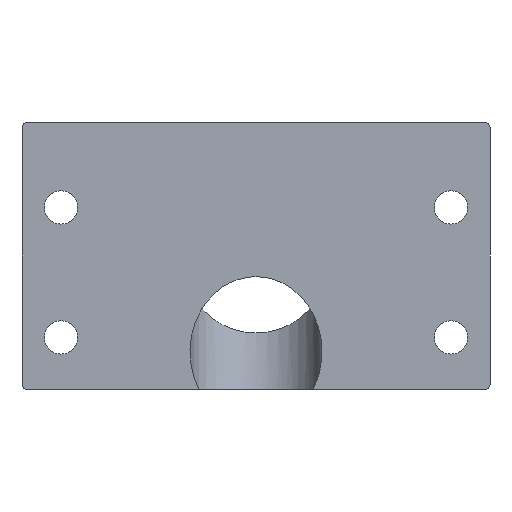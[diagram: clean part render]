
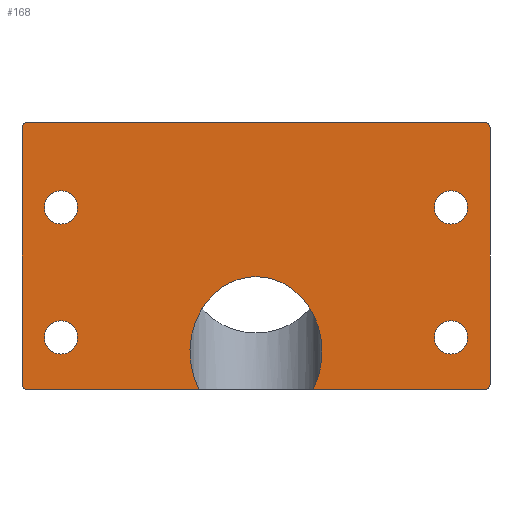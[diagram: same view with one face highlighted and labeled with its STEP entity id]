
A CAD part, front view. The second image highlights one B-rep face of the part: STEP entity #168.
In plain terms, the highlighted planar face has unit normal (0, -1, 0).
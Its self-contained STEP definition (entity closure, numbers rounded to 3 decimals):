
#3 = AXIS2_PLACEMENT_3D ( 'NONE', #954, #399, #380 ) ;
#5 = CIRCLE ( 'NONE', #169, 1. ) ;
#7 = ORIENTED_EDGE ( 'NONE', *, *, #153, .T. ) ;
#12 = VERTEX_POINT ( 'NONE', #242 ) ;
#18 = FACE_BOUND ( 'NONE', #546, .T. ) ;
#20 = ORIENTED_EDGE ( 'NONE', *, *, #548, .T. ) ;
#45 = VECTOR ( 'NONE', #1086, 1000. ) ;
#50 = CARTESIAN_POINT ( 'NONE',  ( 45., 0., -34. ) ) ;
#54 = ORIENTED_EDGE ( 'NONE', *, *, #961, .T. ) ;
#77 = EDGE_CURVE ( 'NONE', #382, #382, #719, .T. ) ;
#78 = CARTESIAN_POINT ( 'NONE',  ( -45., 0., -34. ) ) ;
#80 = LINE ( 'NONE', #172, #365 ) ;
#102 = CARTESIAN_POINT ( 'NONE',  ( 10.946, 0., -35. ) ) ;
#106 = FACE_BOUND ( 'NONE', #708, .T. ) ;
#114 = CARTESIAN_POINT ( 'NONE',  ( 0., 0., 0. ) ) ;
#115 = CARTESIAN_POINT ( 'NONE',  ( -44., 0., 16.327 ) ) ;
#131 = CARTESIAN_POINT ( 'NONE',  ( -10.946, 0., -35. ) ) ;
#153 = EDGE_CURVE ( 'NONE', #233, #233, #435, .T. ) ;
#166 = ORIENTED_EDGE ( 'NONE', *, *, #77, .T. ) ;
#167 = DIRECTION ( 'NONE',  ( 1., 0., 0. ) ) ;
#168 = ADVANCED_FACE ( 'NONE', ( #18, #470, #106, #1168, #484 ), #218, .F. ) ;
#169 = AXIS2_PLACEMENT_3D ( 'NONE', #819, #426, #533 ) ;
#170 = VERTEX_POINT ( 'NONE', #966 ) ;
#172 = CARTESIAN_POINT ( 'NONE',  ( -45., 0., -35. ) ) ;
#183 = AXIS2_PLACEMENT_3D ( 'NONE', #824, #356, #1124 ) ;
#184 = CARTESIAN_POINT ( 'NONE',  ( -45., 0., 15.327 ) ) ;
#197 = VECTOR ( 'NONE', #254, 1000. ) ;
#204 = DIRECTION ( 'NONE',  ( 0., -1., 0. ) ) ;
#218 = PLANE ( 'NONE',  #1008 ) ;
#233 = VERTEX_POINT ( 'NONE', #503 ) ;
#242 = CARTESIAN_POINT ( 'NONE',  ( 44., 0., 16.327 ) ) ;
#243 = AXIS2_PLACEMENT_3D ( 'NONE', #1062, #1173, #596 ) ;
#254 = DIRECTION ( 'NONE',  ( 1., 0., 0. ) ) ;
#259 = ORIENTED_EDGE ( 'NONE', *, *, #457, .T. ) ;
#262 = EDGE_CURVE ( 'NONE', #1207, #1194, #735, .T. ) ;
#267 = DIRECTION ( 'NONE',  ( 0., 0., 1. ) ) ;
#269 = DIRECTION ( 'NONE',  ( 0., -1., 0. ) ) ;
#300 = CARTESIAN_POINT ( 'NONE',  ( -11.063, 0., -13.323 ) ) ;
#307 = VECTOR ( 'NONE', #983, 1000. ) ;
#318 = EDGE_CURVE ( 'NONE', #12, #549, #987, .T. ) ;
#327 = CARTESIAN_POINT ( 'NONE',  ( 44., 0., -35. ) ) ;
#328 = CARTESIAN_POINT ( 'NONE',  ( 45., 0., 15.327 ) ) ;
#329 = CARTESIAN_POINT ( 'NONE',  ( 45., 0., -35. ) ) ;
#354 = CARTESIAN_POINT ( 'NONE',  ( -44., 0., 15.327 ) ) ;
#356 = DIRECTION ( 'NONE',  ( 0., 1., 0. ) ) ;
#357 = VERTEX_POINT ( 'NONE', #438 ) ;
#365 = VECTOR ( 'NONE', #449, 1000. ) ;
#380 = DIRECTION ( 'NONE',  ( 0., 0., 1. ) ) ;
#382 = VERTEX_POINT ( 'NONE', #1155 ) ;
#399 = DIRECTION ( 'NONE',  ( 0., 1., 0. ) ) ;
#410 = CIRCLE ( 'NONE', #738, 1. ) ;
#412 = CARTESIAN_POINT ( 'NONE',  ( -16.556, 0., -24.2 ) ) ;
#426 = DIRECTION ( 'NONE',  ( 0., -1., 0. ) ) ;
#435 = CIRCLE ( 'NONE', #3, 3.2 ) ;
#437 = CIRCLE ( 'NONE', #1033, 3.2 ) ;
#438 = CARTESIAN_POINT ( 'NONE',  ( 37.5, 0., -21.8 ) ) ;
#447 = CARTESIAN_POINT ( 'NONE',  ( -45., 0., -35. ) ) ;
#449 = DIRECTION ( 'NONE',  ( 0., 0., 1. ) ) ;
#453 = ORIENTED_EDGE ( 'NONE', *, *, #543, .F. ) ;
#457 = EDGE_CURVE ( 'NONE', #170, #1050, #518, .T. ) ;
#470 = FACE_BOUND ( 'NONE', #1126, .T. ) ;
#484 = FACE_OUTER_BOUND ( 'NONE', #1179, .T. ) ;
#503 = CARTESIAN_POINT ( 'NONE',  ( 37.5, 0., 3.2 ) ) ;
#517 = EDGE_CURVE ( 'NONE', #1162, #946, #710, .T. ) ;
#518 = LINE ( 'NONE', #447, #197 ) ;
#533 = DIRECTION ( 'NONE',  ( 0., 0., 1. ) ) ;
#538 = EDGE_CURVE ( 'NONE', #1050, #1162, #899, .T. ) ;
#543 = EDGE_CURVE ( 'NONE', #711, #760, #80, .T. ) ;
#546 = EDGE_LOOP ( 'NONE', ( #641 ) ) ;
#548 = EDGE_CURVE ( 'NONE', #946, #12, #1060, .T. ) ;
#549 = VERTEX_POINT ( 'NONE', #115 ) ;
#580 = CARTESIAN_POINT ( 'NONE',  ( 11.063, 0., -13.323 ) ) ;
#596 = DIRECTION ( 'NONE',  ( 0., 0., 1. ) ) ;
#611 = CARTESIAN_POINT ( 'NONE',  ( 0., 0., -13.323 ) ) ;
#623 = CARTESIAN_POINT ( 'NONE',  ( -45., 0., 16.327 ) ) ;
#625 =( BOUNDED_CURVE ( )  B_SPLINE_CURVE ( 3, ( #860, #412, #300, #611, #580, #1065, #102 ),
 .UNSPECIFIED., .F., .T. ) 
 B_SPLINE_CURVE_WITH_KNOTS ( ( 4, 3, 4 ),
 ( 4.181, 6.283, 8.386 ),
 .UNSPECIFIED. ) 
 CURVE ( )  GEOMETRIC_REPRESENTATION_ITEM ( )  RATIONAL_B_SPLINE_CURVE ( ( 1., 0.664, 0.664, 1., 0.664, 0.664, 1. ) ) 
 REPRESENTATION_ITEM ( '' )  );
#641 = ORIENTED_EDGE ( 'NONE', *, *, #787, .T. ) ;
#648 = VECTOR ( 'NONE', #167, 1000. ) ;
#691 = DIRECTION ( 'NONE',  ( 0., 0., 1. ) ) ;
#702 = ORIENTED_EDGE ( 'NONE', *, *, #517, .T. ) ;
#708 = EDGE_LOOP ( 'NONE', ( #7 ) ) ;
#710 = LINE ( 'NONE', #329, #45 ) ;
#711 = VERTEX_POINT ( 'NONE', #78 ) ;
#719 = CIRCLE ( 'NONE', #183, 3.2 ) ;
#735 = LINE ( 'NONE', #1116, #648 ) ;
#738 = AXIS2_PLACEMENT_3D ( 'NONE', #354, #1128, #267 ) ;
#743 = EDGE_CURVE ( 'NONE', #549, #760, #410, .T. ) ;
#757 = AXIS2_PLACEMENT_3D ( 'NONE', #767, #269, #929 ) ;
#760 = VERTEX_POINT ( 'NONE', #184 ) ;
#767 = CARTESIAN_POINT ( 'NONE',  ( 44., 0., -34. ) ) ;
#773 = VERTEX_POINT ( 'NONE', #1171 ) ;
#778 = CIRCLE ( 'NONE', #243, 3.2 ) ;
#787 = EDGE_CURVE ( 'NONE', #357, #357, #437, .T. ) ;
#798 = CARTESIAN_POINT ( 'NONE',  ( 37.5, 0., -25. ) ) ;
#812 = ORIENTED_EDGE ( 'NONE', *, *, #538, .T. ) ;
#819 = CARTESIAN_POINT ( 'NONE',  ( -44., 0., -34. ) ) ;
#824 = CARTESIAN_POINT ( 'NONE',  ( -37.5, 0., 0. ) ) ;
#832 = CARTESIAN_POINT ( 'NONE',  ( 44., 0., 15.327 ) ) ;
#844 = AXIS2_PLACEMENT_3D ( 'NONE', #832, #204, #853 ) ;
#853 = DIRECTION ( 'NONE',  ( 0., 0., 1. ) ) ;
#860 = CARTESIAN_POINT ( 'NONE',  ( -10.946, 0., -35. ) ) ;
#895 = DIRECTION ( 'NONE',  ( 0., 0., 1. ) ) ;
#899 = CIRCLE ( 'NONE', #757, 1. ) ;
#901 = EDGE_CURVE ( 'NONE', #1194, #170, #625, .T. ) ;
#929 = DIRECTION ( 'NONE',  ( 0., 0., 1. ) ) ;
#946 = VERTEX_POINT ( 'NONE', #328 ) ;
#954 = CARTESIAN_POINT ( 'NONE',  ( 37.5, 0., 0. ) ) ;
#961 = EDGE_CURVE ( 'NONE', #711, #1207, #5, .T. ) ;
#963 = ORIENTED_EDGE ( 'NONE', *, *, #262, .T. ) ;
#966 = CARTESIAN_POINT ( 'NONE',  ( 10.946, 0., -35. ) ) ;
#983 = DIRECTION ( 'NONE',  ( -1., 0., 0. ) ) ;
#987 = LINE ( 'NONE', #623, #307 ) ;
#1008 = AXIS2_PLACEMENT_3D ( 'NONE', #114, #1176, #691 ) ;
#1033 = AXIS2_PLACEMENT_3D ( 'NONE', #798, #1187, #895 ) ;
#1041 = ORIENTED_EDGE ( 'NONE', *, *, #901, .T. ) ;
#1050 = VERTEX_POINT ( 'NONE', #327 ) ;
#1060 = CIRCLE ( 'NONE', #844, 1. ) ;
#1062 = CARTESIAN_POINT ( 'NONE',  ( -37.5, 0., -25. ) ) ;
#1065 = CARTESIAN_POINT ( 'NONE',  ( 16.556, 0., -24.2 ) ) ;
#1086 = DIRECTION ( 'NONE',  ( 0., 0., 1. ) ) ;
#1116 = CARTESIAN_POINT ( 'NONE',  ( -45., 0., -35. ) ) ;
#1122 = EDGE_CURVE ( 'NONE', #773, #773, #778, .T. ) ;
#1124 = DIRECTION ( 'NONE',  ( 0., 0., 1. ) ) ;
#1125 = ORIENTED_EDGE ( 'NONE', *, *, #318, .T. ) ;
#1126 = EDGE_LOOP ( 'NONE', ( #1170 ) ) ;
#1128 = DIRECTION ( 'NONE',  ( 0., -1., 0. ) ) ;
#1134 = ORIENTED_EDGE ( 'NONE', *, *, #743, .T. ) ;
#1137 = CARTESIAN_POINT ( 'NONE',  ( -44., 0., -35. ) ) ;
#1142 = EDGE_LOOP ( 'NONE', ( #166 ) ) ;
#1155 = CARTESIAN_POINT ( 'NONE',  ( -37.5, 0., 3.2 ) ) ;
#1162 = VERTEX_POINT ( 'NONE', #50 ) ;
#1168 = FACE_BOUND ( 'NONE', #1142, .T. ) ;
#1170 = ORIENTED_EDGE ( 'NONE', *, *, #1122, .T. ) ;
#1171 = CARTESIAN_POINT ( 'NONE',  ( -37.5, 0., -21.8 ) ) ;
#1173 = DIRECTION ( 'NONE',  ( 0., 1., 0. ) ) ;
#1176 = DIRECTION ( 'NONE',  ( 0., 1., 0. ) ) ;
#1179 = EDGE_LOOP ( 'NONE', ( #453, #54, #963, #1041, #259, #812, #702, #20, #1125, #1134 ) ) ;
#1187 = DIRECTION ( 'NONE',  ( 0., 1., 0. ) ) ;
#1194 = VERTEX_POINT ( 'NONE', #131 ) ;
#1207 = VERTEX_POINT ( 'NONE', #1137 ) ;
